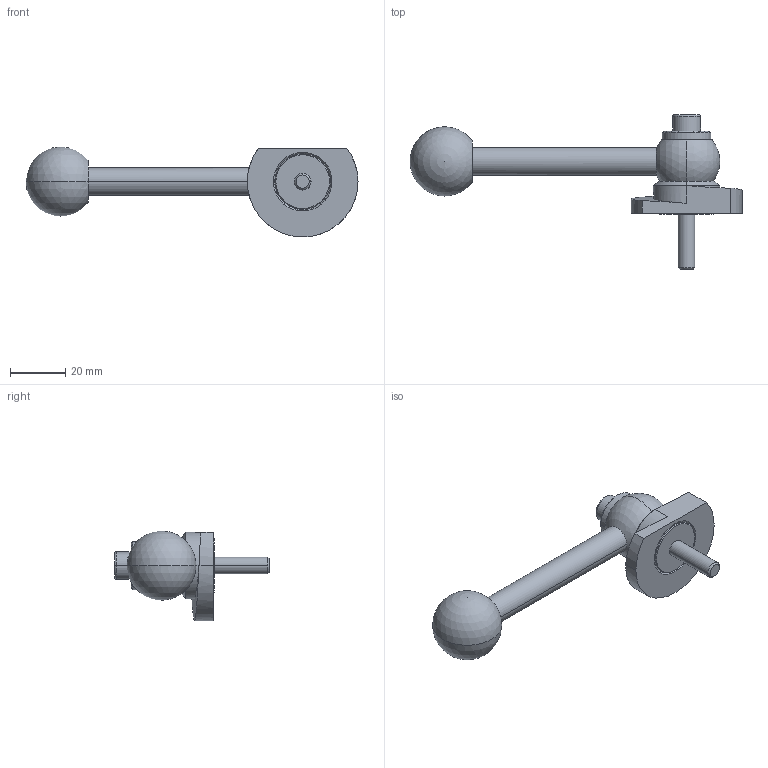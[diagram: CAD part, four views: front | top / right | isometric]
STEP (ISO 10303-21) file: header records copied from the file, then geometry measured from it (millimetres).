
FILE_DESCRIPTION (( 'STEP AP214' ), '1' );
FILE_NAME ('918.1-40-GVS-L-20.step', '2024-05-15T12:59:17', ( '' ), ( '' ), 'SwSTEP 2.0', 'SolidWorks 2022', '' );
FILE_SCHEMA (( 'AUTOMOTIVE_DESIGN' ));
Length unit declared in the file: millimetre
Products named in the file (1): 918.1-40-GVS-L-20
Bounding box: 120 x 56 x 32.5 mm (x, y, z)
Volume: 30073.3 mm3; surface area: 11116 mm2
Topology: 1 solids, 1 shells, 62 faces, 141 edges, 89 vertices
Faces by surface type: plane 20, cylinder 19, cone 14, sphere 4, bspline 3, torus 2
Entity records: 2003 total; most frequent: CARTESIAN_POINT 614, DIRECTION 304, ORIENTED_EDGE 262, EDGE_CURVE 131, AXIS2_PLACEMENT_3D 125, VERTEX_POINT 83, EDGE_LOOP 74, CIRCLE 65
